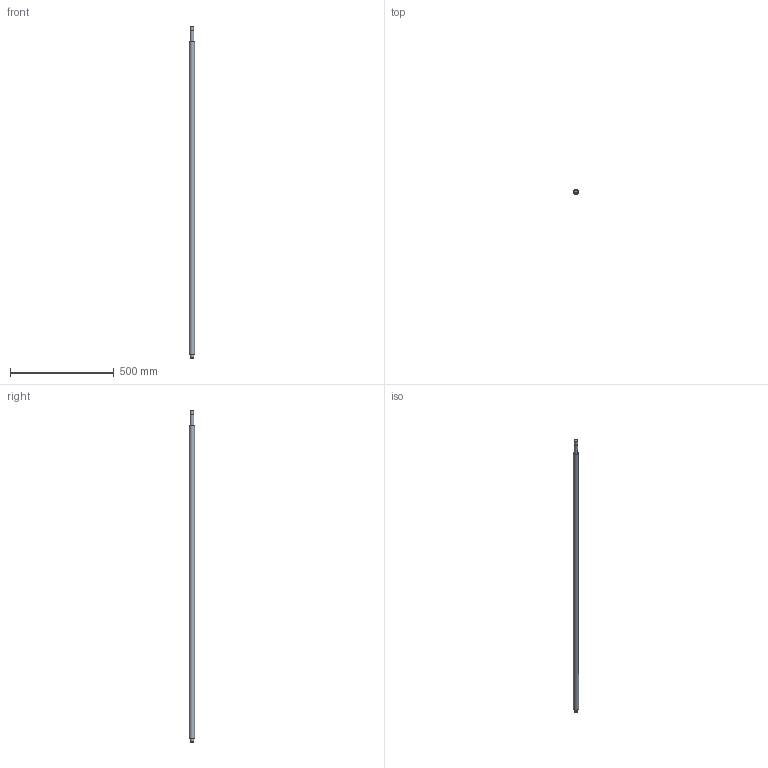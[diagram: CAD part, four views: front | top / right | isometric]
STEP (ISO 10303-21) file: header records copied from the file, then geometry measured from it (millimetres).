
FILE_DESCRIPTION(/* description */ (''),/* implementation_level */ '2;1');
FILE_NAME(/* name */ 'C:\Users\David Dillkötter\ownCloud\Kamp und Kötter\Artikel\_CAD-Dateien\CAD-Dateien-Shop\CAD-Dateien\Kugelumlaufspindel\2510\KUS2510x1600.stp',/* time_stamp */ '2020-09-03T09:46:17+02:00',/* author */ ('David Dillkötter'),/* organization */ (''),/* preprocessor_version */ 'ST-DEVELOPER v18.1',/* originating_system */ 'Autodesk Inventor 2021',/* authorisation */ '');
FILE_SCHEMA (('AUTOMOTIVE_DESIGN { 1 0 10303 214 3 1 1 }'));
Length unit declared in the file: millimetre
Products named in the file (1): KUS2510_Gewindespindel
Bounding box: 25 x 25 x 1600 mm (x, y, z)
Volume: 759935.2 mm3; surface area: 124200.1 mm2
Topology: 1 solids, 1 shells, 17 faces, 30 edges, 20 vertices
Faces by surface type: plane 7, cylinder 6, cone 4
Full cylindrical faces by diameter (mm): 15 x1, 16.2 x1, 17 x3, 25 x1
Entity records: 465 total; most frequent: DIRECTION 86, CARTESIAN_POINT 68, ORIENTED_EDGE 60, AXIS2_PLACEMENT_3D 38, EDGE_CURVE 30, EDGE_LOOP 22, CIRCLE 20, VERTEX_POINT 20
